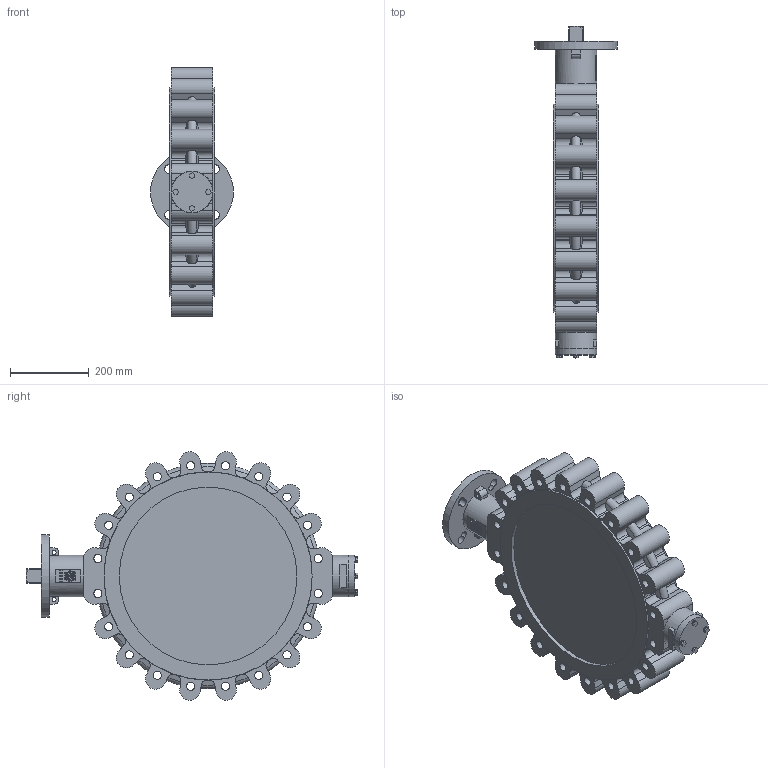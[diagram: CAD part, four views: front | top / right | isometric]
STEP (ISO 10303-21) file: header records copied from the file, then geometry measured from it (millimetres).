
FILE_DESCRIPTION(/* description */ (''),/* implementation_level */ '2;1');
FILE_NAME(/* name */ '6820-DN450-PN10-NBR - 13332796.stp',/* time_stamp */ '2024-09-05T08:07:21+02:00',/* author */ ('roger.thijssen'),/* organization */ (''),/* preprocessor_version */ 'ST-DEVELOPER v20',/* originating_system */ 'Autodesk Inventor 2024',/* authorisation */ '');
FILE_SCHEMA (('AUTOMOTIVE_DESIGN { 1 0 10303 214 3 1 1 }'));
Length unit declared in the file: millimetre
Products named in the file (1): 6820-DN450-PN10
Bounding box: 210 x 840.55 x 629.79 mm (x, y, z)
Volume: 29263520.2 mm3; surface area: 1179170.1 mm2
Topology: 1 solids, 1 shells, 740 faces, 2015 edges, 1321 vertices
Faces by surface type: plane 394, cylinder 167, bspline 120, cone 41, torus 18
Full cylindrical faces by diameter (mm): 6.647 x1, 10 x2, 12.88 x4, 20.752 x20, 104.8 x1, 105 x2, 210 x1, 450 x2, 527 x2
Entity records: 26987 total; most frequent: CARTESIAN_POINT 8162, ORIENTED_EDGE 4028, DIRECTION 3276, EDGE_CURVE 2014, VERTEX_POINT 1321, LINE 1130, VECTOR 1130, AXIS2_PLACEMENT_3D 1073
